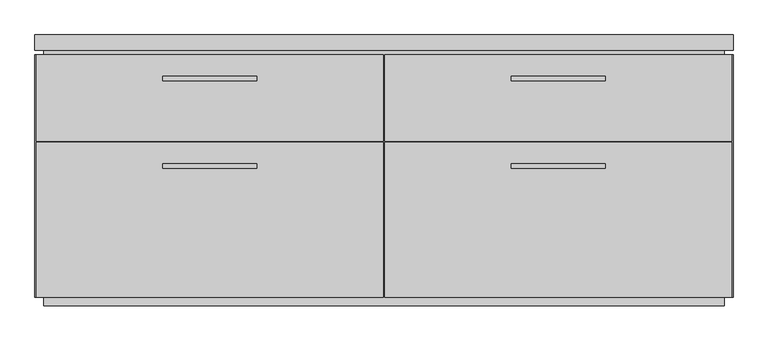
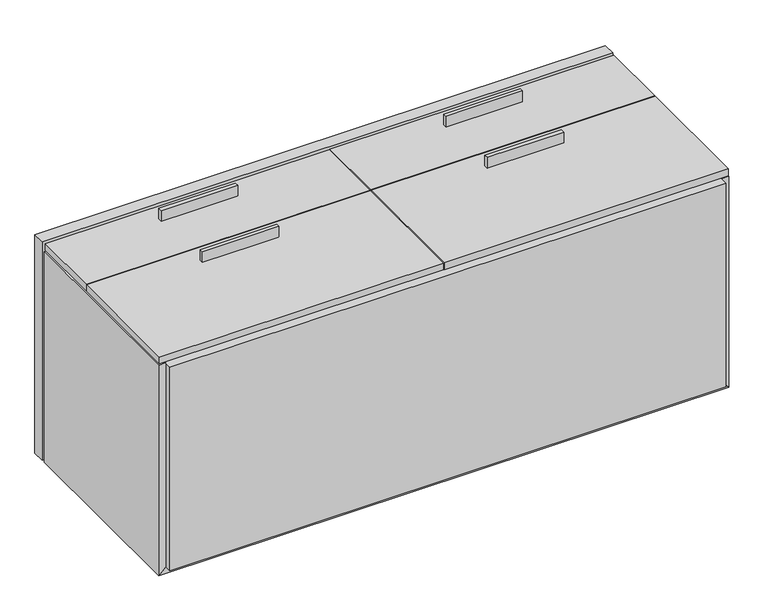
"""IFC4 building model written with IfcOpenShell, lengths in millimetres: proxy geometry, BASYS^CREDENZA 6B 23-59.25 FF STORAGE."""

from ifc_helpers import new_model, si_unit, frame, origin, origin_with_axes, place, context, project, spatial, polyline, outline, extrude, source, transform, mapped, element, save


def generic_models_38735c29(model_context):
    return source(origin(), model_context, "Body", "SweptSolid", [
        extrude(outline(polyline([(1229.1171875, 296.625), (1027.1171875, 296.625), (1027.1171875, 306.625), (1229.1171875, 306.625), (1229.1171875, 296.625)])), frame((0.0, 0.0, 609.6), z_axis=(0.0, 0.0, 1.0), x_axis=(1.0, 0.0, 0.0)), (0.0, 0.0, 1.0), 30.0),
        extrude(outline(polyline([(1229.1171875, 485.5375), (1027.1171875, 485.5375), (1027.1171875, 495.5375), (1229.1171875, 495.5375), (1229.1171875, 485.5375)])), frame((0.0, 0.0, 609.6), z_axis=(0.0, 0.0, 1.0), x_axis=(1.0, 0.0, 0.0)), (0.0, 0.0, 1.0), 30.0),
        extrude(outline(polyline([(477.8328125, 485.5375), (275.8328125, 485.5375), (275.8328125, 495.5375), (477.8328125, 495.5375), (477.8328125, 485.5375)])), frame((0.0, 0.0, 609.6), z_axis=(0.0, 0.0, 1.0), x_axis=(1.0, 0.0, 0.0)), (0.0, 0.0, 1.0), 30.0),
        extrude(outline(polyline([(477.8328125, 296.625), (275.8328125, 296.625), (275.8328125, 306.625), (477.8328125, 306.625), (477.8328125, 296.625)])), frame((0.0, 0.0, 609.6), z_axis=(0.0, 0.0, 1.0), x_axis=(1.0, 0.0, 0.0)), (0.0, 0.0, 1.0), 30.0),
        extrude(outline(polyline([(587.375, 19.05), (587.375, 0.0), (0.0, 0.0), (19.05, 19.05), (587.375, 19.05)])), frame((0.0, 19.05, 0.0), z_axis=(0.0, 1.0, 0.0), x_axis=(0.0, 0.0, 1.0)), (0.0, 0.0, 1.0), 522.2875),
        extrude(outline(polyline([(19.05, 1485.9), (19.05, 19.05), (0.0, 0.0), (0.0, 1504.95), (19.05, 1485.9)])), frame((0.0, 19.05, 0.0), z_axis=(0.0, 1.0, 0.0), x_axis=(0.0, 0.0, 1.0)), (0.0, 0.0, 1.0), 522.2875),
        extrude(outline(polyline([(1485.9, 38.1), (1485.9, 0.0), (19.05, 0.0), (19.05, 38.1), (1485.9, 38.1)])), frame((0.0, 0.0, 19.05), z_axis=(0.0, 0.0, 1.0), x_axis=(1.0, 0.0, 0.0)), (0.0, 0.0, 1.0), 568.325),
        extrude(outline(polyline([(742.95, 522.2875), (762.0, 522.2875), (762.0, 38.1), (742.95, 38.1), (742.95, 522.2875)])), frame((0.0, 0.0, 19.05), z_axis=(0.0, 0.0, 1.0), x_axis=(1.0, 0.0, 0.0)), (0.0, 0.0, 1.0), 568.325),
        extrude(outline(polyline([(1502.56875, 19.05), (753.665625, 19.05), (753.665625, 352.425), (1502.56875, 352.425), (1502.56875, 19.05)])), frame((0.0, 0.0, 590.55), z_axis=(0.0, 0.0, 1.0), x_axis=(1.0, 0.0, 0.0)), (0.0, 0.0, 1.0), 19.05),
        extrude(outline(polyline([(751.284375, 541.3375), (751.284375, 354.80625), (2.38125, 354.80625), (2.38125, 541.3375), (751.284375, 541.3375)])), frame((0.0, 0.0, 590.55), z_axis=(0.0, 0.0, 1.0), x_axis=(1.0, 0.0, 0.0)), (0.0, 0.0, 1.0), 19.05),
        extrude(outline(polyline([(19.05, 550.8625), (1485.9, 550.8625), (1485.9, 522.2875), (19.05, 522.2875), (19.05, 550.8625)])), frame((0.0, 0.0, 19.05), z_axis=(0.0, 0.0, 1.0), x_axis=(1.0, 0.0, 0.0)), (0.0, 0.0, 1.0), 568.325),
        extrude(outline(polyline([(2.38125, 352.425), (751.284375, 352.425), (751.284375, 19.05), (2.38125, 19.05), (2.38125, 352.425)])), frame((0.0, 0.0, 590.55), z_axis=(0.0, 0.0, 1.0), x_axis=(1.0, 0.0, 0.0)), (0.0, 0.0, 1.0), 19.05),
        extrude(outline(polyline([(1502.56875, 541.3375), (1502.56875, 354.80625), (753.665625, 354.80625), (753.665625, 541.3375), (1502.56875, 541.3375)])), frame((0.0, 0.0, 590.55), z_axis=(0.0, 0.0, 1.0), x_axis=(1.0, 0.0, 0.0)), (0.0, 0.0, 1.0), 19.05),
        extrude(outline(polyline([(1504.95, 550.8625), (0.0, 550.8625), (0.0, 584.2), (1504.95, 584.2), (1504.95, 550.8625)])), origin_with_axes(), (0.0, 0.0, 1.0), 609.6),
        extrude(outline(polyline([(587.375, 1485.9), (19.05, 1485.9), (0.0, 1504.95), (587.375, 1504.95), (587.375, 1485.9)])), frame((0.0, 19.05, 0.0), z_axis=(0.0, 1.0, 0.0), x_axis=(0.0, 0.0, 1.0)), (0.0, 0.0, 1.0), 522.2875),
    ])


if __name__ == "__main__":
    model = new_model("IFC4")
    model_context = context("Model", 3, world=origin())
    ifc_project = project(units=[si_unit("LENGTHUNIT", "METRE", prefix="MILLI")], contexts=[model_context])
    site = spatial("IfcSite", under=ifc_project)
    building = spatial("IfcBuilding", under=site)
    placement = place(None, origin())
    generic_models_shape = generic_models_38735c29(model_context)
    element("IfcBuildingElementProxy", 1, Name="BASYS^CREDENZA 6B 23-59.25 FF STORAGE", ObjectType="BASYS^CREDENZA 6B 23-59.25 FF STORAGE", at=placement, inside=building, context=model_context, shape_type="MappedRepresentation", body=[
        mapped(generic_models_shape, transform((0.0, 0.0, 0.0), x_axis=(1.0, 0.0, 0.0), y_axis=(0.0, 1.0, 0.0), z_axis=(0.0, 0.0, 1.0))),
    ])
    save(model, "model.ifc")
